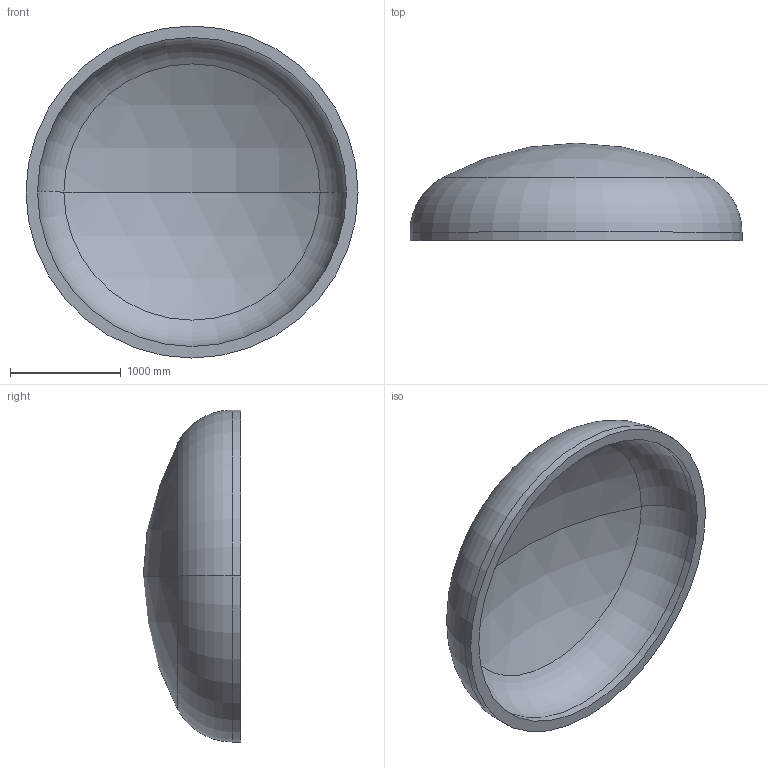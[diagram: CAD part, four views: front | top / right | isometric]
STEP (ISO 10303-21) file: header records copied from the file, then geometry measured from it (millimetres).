
FILE_DESCRIPTION (( 'STEP AP203' ), '1' );
FILE_NAME ('DIN 28013 Korbbogenform_-_Boden DIN 28013 - 3000 x 75 - I - s=104.step', '2016-07-01T18:08:09', ( '' ), ( '' ), 'SwSTEP 2.0', 'SolidWorks 2013', '' );
FILE_SCHEMA (( 'CONFIG_CONTROL_DESIGN' ));
Length unit declared in the file: millimetre
Products named in the file (1): DIN 28013 Korbbogenform_-_Boden DIN 28013 - 3000 x 75 - I - s=104
Bounding box: 3000 x 879.73 x 3000 mm (x, y, z)
Volume: 1043349012.1 mm3; surface area: 21033247.9 mm2
Topology: 1 solids, 1 shells, 13 faces, 24 edges, 14 vertices
Faces by surface type: torus 4, cylinder 4, sphere 4, plane 1
Entity records: 407 total; most frequent: DIRECTION 72, CARTESIAN_POINT 52, ORIENTED_EDGE 48, AXIS2_PLACEMENT_3D 34, EDGE_CURVE 24, CIRCLE 20, VERTEX_POINT 14, EDGE_LOOP 14
